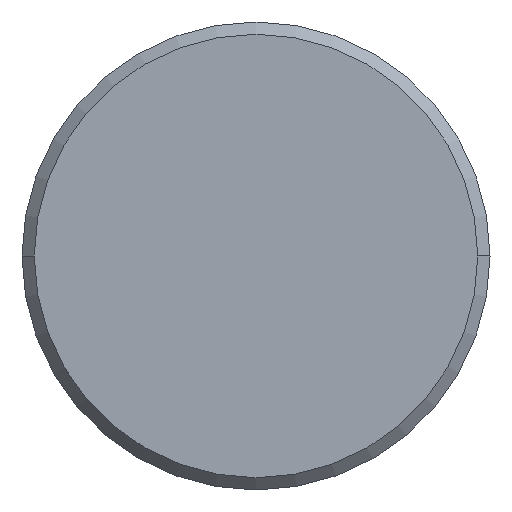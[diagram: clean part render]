
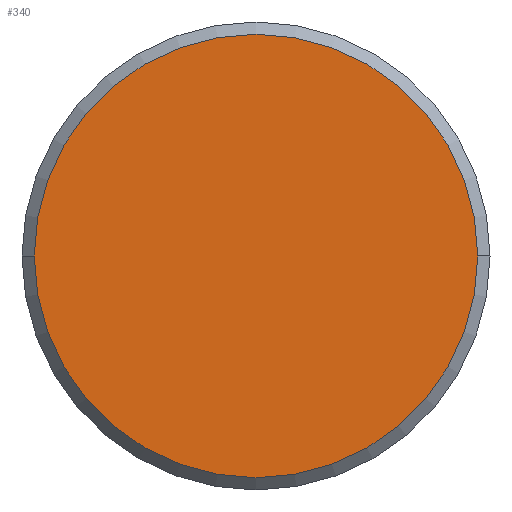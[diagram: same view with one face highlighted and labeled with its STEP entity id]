
A CAD part, left-side view. The second image highlights one B-rep face of the part: STEP entity #340.
In plain terms, the highlighted planar face has unit normal (-1, 0, 0).
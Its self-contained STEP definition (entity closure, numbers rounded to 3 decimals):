
#14 = CARTESIAN_POINT ( 'NONE',  ( -52.975, 0., 0. ) ) ;
#21 = AXIS2_PLACEMENT_3D ( 'NONE', #363, #149, #338 ) ;
#34 = AXIS2_PLACEMENT_3D ( 'NONE', #14, #277, #87 ) ;
#76 = EDGE_CURVE ( 'NONE', #291, #370, #316, .T. ) ;
#81 = EDGE_CURVE ( 'NONE', #370, #291, #342, .T. ) ;
#87 = DIRECTION ( 'NONE',  ( 0., 1., 0. ) ) ;
#149 = DIRECTION ( 'NONE',  ( 1., 0., 0. ) ) ;
#202 = AXIS2_PLACEMENT_3D ( 'NONE', #232, #386, #209 ) ;
#209 = DIRECTION ( 'NONE',  ( 0., -1., 0. ) ) ;
#232 = CARTESIAN_POINT ( 'NONE',  ( -52.975, 0., 0. ) ) ;
#248 = FACE_OUTER_BOUND ( 'NONE', #322, .T. ) ;
#277 = DIRECTION ( 'NONE',  ( 1., 0., 0. ) ) ;
#282 = PLANE ( 'NONE',  #202 ) ;
#291 = VERTEX_POINT ( 'NONE', #422 ) ;
#316 = CIRCLE ( 'NONE', #34, 9.025 ) ;
#322 = EDGE_LOOP ( 'NONE', ( #337, #403 ) ) ;
#337 = ORIENTED_EDGE ( 'NONE', *, *, #76, .F. ) ;
#338 = DIRECTION ( 'NONE',  ( 0., 1., 0. ) ) ;
#340 = ADVANCED_FACE ( 'NONE', ( #248 ), #282, .T. ) ;
#342 = CIRCLE ( 'NONE', #21, 9.025 ) ;
#363 = CARTESIAN_POINT ( 'NONE',  ( -52.975, 0., 0. ) ) ;
#370 = VERTEX_POINT ( 'NONE', #396 ) ;
#386 = DIRECTION ( 'NONE',  ( -1., 0., 0. ) ) ;
#396 = CARTESIAN_POINT ( 'NONE',  ( -52.975, -9.025, 0. ) ) ;
#403 = ORIENTED_EDGE ( 'NONE', *, *, #81, .F. ) ;
#422 = CARTESIAN_POINT ( 'NONE',  ( -52.975, 9.025, 0. ) ) ;
